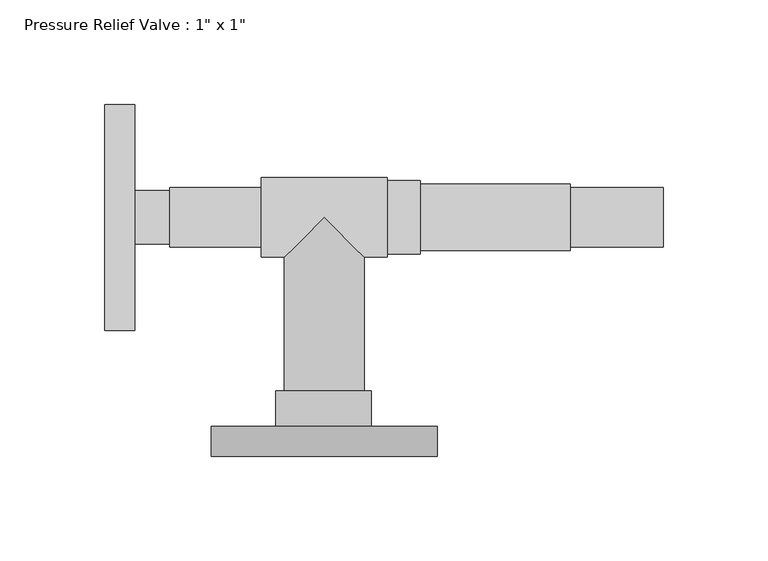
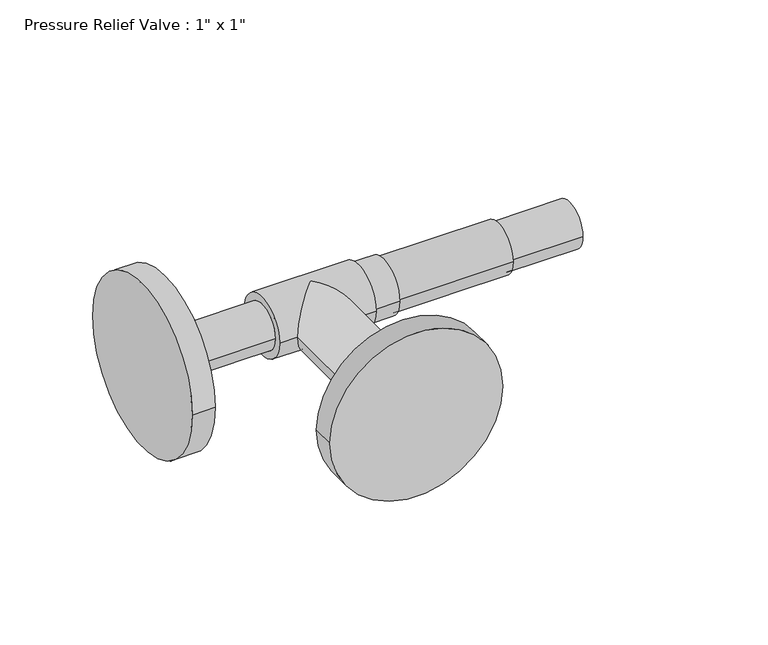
"""IFC4 building model written with IfcOpenShell, lengths in millimetres: valve geometry."""

from ifc_helpers import new_model, si_unit, point, frame, frame_2d, origin, place, context, project, spatial, circle_curve, ellipse_curve, trimmed, segment, composite_curve, outline, extrude, source, transform, mapped, element, save
from ifc_brep_helpers import plane_surface, cylinder_surface, advanced_brep


def valve_f67c32de(model_context):
    return source(origin(), model_context, "Body", "SolidModel", [
        advanced_brep(
        [(30.1625, 19.05, 0.0), (30.1625, -19.05, 0.0), (30.1625, -17.4625, 0.0), (30.1625, 17.4625, 0.0), (-30.1625, 19.05, 0.0), (-30.1625, -19.05, 0.0), (-30.1625, 14.2875, 0.0), (-30.1625, -14.2875, 0.0), (19.05, -19.05, 0.0), (0.0, 0.0, -19.05), (-19.05, -19.05, 0.0), (0.0, 0.0, 19.05), (-90.5867187, 12.7, 0.0), (-90.5867187, -12.7, 0.0), (-73.895712, 12.7, 0.0), (-73.895712, -12.7, 0.0), (19.05, -82.9273723, 0.0), (-19.05, -82.9273723, 0.0), (22.4890133, -100.0125, 0.0), (-23.2309867, -100.0125, 0.0), (22.4890133, -82.9273723, 0.0), (-23.2309867, -82.9273723, 0.0), (117.475, 15.875, 0.0), (117.475, -15.875, 0.0), (117.475, -14.2875, 0.0), (117.475, 14.2875, 0.0), (45.72, -15.875, 0.0), (45.72, 15.875, 0.0), (161.925, 14.2875, 0.0), (161.925, -14.2875, 0.0), (-73.895712, 14.2875, 0.0), (-73.895712, -14.2875, 0.0), (45.72, 17.4625, 0.0), (45.72, -17.4625, 0.0)],
        [
            (0, 1, circle_curve(frame((30.1625, 0.0, 0.0), z_axis=(1.0, 0.0, 0.0), x_axis=(0.0, -1.0, 0.0)), 19.05)),
            (1, 0, circle_curve(frame((30.1625, 0.0, 0.0), z_axis=(1.0, 0.0, 0.0), x_axis=(0.0, -1.0, 0.0)), 19.05)),
            (2, 3, circle_curve(frame((30.1625, 0.0, 0.0), z_axis=(-1.0, 0.0, 0.0), x_axis=(0.0, -1.0, 0.0)), 17.4625)),
            (3, 2, circle_curve(frame((30.1625, 0.0, 0.0), z_axis=(-1.0, 0.0, 0.0), x_axis=(0.0, -1.0, 0.0)), 17.4625)),
            (4, 5, circle_curve(frame((-30.1625, 0.0, 0.0), z_axis=(-1.0, 0.0, 0.0), x_axis=(0.0, -1.0, 0.0)), 19.05)),
            (5, 4, circle_curve(frame((-30.1625, 0.0, 0.0), z_axis=(-1.0, 0.0, 0.0), x_axis=(0.0, -1.0, 0.0)), 19.05)),
            (6, 7, circle_curve(frame((-30.1625, 0.0, 0.0), z_axis=(1.0, 0.0, 0.0), x_axis=(0.0, -1.0, 0.0)), 14.2875)),
            (7, 6, circle_curve(frame((-30.1625, 0.0, 0.0), z_axis=(1.0, 0.0, 0.0), x_axis=(0.0, -1.0, 0.0)), 14.2875)),
            (1, 8),
            (8, 9, ellipse_curve(frame((0.0, 0.0, 0.0), z_axis=(0.7071067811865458, 0.7071067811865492, 0.0), x_axis=(0.7071067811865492, -0.7071067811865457, 0.0)), 26.9407684, 19.05)),
            (9, 10, ellipse_curve(frame((0.0, 0.0, 0.0), z_axis=(-0.7071067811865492, 0.7071067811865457, 0.0), x_axis=(0.7071067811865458, 0.7071067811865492, 0.0)), 26.9407684, 19.05)),
            (10, 5),
            (4, 0),
            (10, 11, ellipse_curve(frame((0.0, 0.0, 0.0), z_axis=(-0.7071067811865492, 0.7071067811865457, 0.0), x_axis=(0.7071067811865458, 0.7071067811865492, 0.0)), 26.9407684, 19.05)),
            (11, 8, ellipse_curve(frame((0.0, 0.0, 0.0), z_axis=(0.7071067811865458, 0.7071067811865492, 0.0), x_axis=(0.7071067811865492, -0.7071067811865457, 0.0)), 26.9407684, 19.05)),
            (12, 13, circle_curve(frame((-90.5867187, 0.0, 0.0), z_axis=(-1.0, 0.0, 0.0), x_axis=(0.0, -1.0, 0.0)), 12.7)),
            (13, 12, circle_curve(frame((-90.5867187, 0.0, 0.0), z_axis=(-1.0, 0.0, 0.0), x_axis=(0.0, -1.0, 0.0)), 12.7)),
            (12, 14),
            (14, 15, circle_curve(frame((-73.895712, 0.0, 0.0), z_axis=(-1.0, 0.0, 0.0), x_axis=(0.0, -1.0, 0.0)), 12.7)),
            (15, 13),
            (15, 14, circle_curve(frame((-73.895712, 0.0, 0.0), z_axis=(-1.0, 0.0, 0.0), x_axis=(0.0, -1.0, 0.0)), 12.7)),
            (16, 17, circle_curve(frame((0.0, -82.9273723, 0.0), z_axis=(0.0, 1.0, 0.0), x_axis=(-1.0, 0.0, 0.0)), 19.05)),
            (17, 10),
            (8, 16),
            (17, 16, circle_curve(frame((0.0, -82.9273723, 0.0), z_axis=(0.0, 1.0, 0.0), x_axis=(-1.0, 0.0, 0.0)), 19.05)),
            (18, 19, circle_curve(frame((-0.3709867, -100.0125, 0.0), z_axis=(0.0, -1.0, 0.0), x_axis=(-1.0, 0.0, 0.0)), 22.86)),
            (19, 18, circle_curve(frame((-0.3709867, -100.0125, 0.0), z_axis=(0.0, -1.0, 0.0), x_axis=(-1.0, 0.0, 0.0)), 22.86)),
            (20, 21, circle_curve(frame((-0.3709867, -82.9273723, 0.0), z_axis=(0.0, 1.0, 0.0), x_axis=(-1.0, 0.0, 0.0)), 22.86)),
            (21, 20, circle_curve(frame((-0.3709867, -82.9273723, 0.0), z_axis=(0.0, 1.0, 0.0), x_axis=(-1.0, 0.0, 0.0)), 22.86)),
            (19, 21),
            (20, 18),
            (22, 23, circle_curve(frame((117.475, 0.0, 0.0), z_axis=(1.0, 0.0, 0.0), x_axis=(0.0, -1.0, 0.0)), 15.875)),
            (23, 22, circle_curve(frame((117.475, 0.0, 0.0), z_axis=(1.0, 0.0, 0.0), x_axis=(0.0, -1.0, 0.0)), 15.875)),
            (24, 25, circle_curve(frame((117.475, 0.0, 0.0), z_axis=(-1.0, 0.0, 0.0), x_axis=(0.0, -1.0, 0.0)), 14.2875)),
            (25, 24, circle_curve(frame((117.475, 0.0, 0.0), z_axis=(-1.0, 0.0, 0.0), x_axis=(0.0, -1.0, 0.0)), 14.2875)),
            (23, 26),
            (26, 27, circle_curve(frame((45.72, 0.0, 0.0), z_axis=(1.0, 0.0, 0.0), x_axis=(0.0, -1.0, 0.0)), 15.875)),
            (27, 22),
            (27, 26, circle_curve(frame((45.72, 0.0, 0.0), z_axis=(1.0, 0.0, 0.0), x_axis=(0.0, -1.0, 0.0)), 15.875)),
            (28, 29, circle_curve(frame((161.925, 0.0, 0.0), z_axis=(1.0, 0.0, 0.0), x_axis=(0.0, -1.0, 0.0)), 14.2875)),
            (29, 28, circle_curve(frame((161.925, 0.0, 0.0), z_axis=(1.0, 0.0, 0.0), x_axis=(0.0, -1.0, 0.0)), 14.2875)),
            (29, 24),
            (25, 28),
            (30, 31, circle_curve(frame((-73.895712, 0.0, 0.0), z_axis=(-1.0, 0.0, 0.0), x_axis=(0.0, -1.0, 0.0)), 14.2875)),
            (31, 30, circle_curve(frame((-73.895712, 0.0, 0.0), z_axis=(-1.0, 0.0, 0.0), x_axis=(0.0, -1.0, 0.0)), 14.2875)),
            (30, 6),
            (7, 31),
            (32, 33, circle_curve(frame((45.72, 0.0, 0.0), z_axis=(1.0, 0.0, 0.0), x_axis=(0.0, -1.0, 0.0)), 17.4625)),
            (33, 32, circle_curve(frame((45.72, 0.0, 0.0), z_axis=(1.0, 0.0, 0.0), x_axis=(0.0, -1.0, 0.0)), 17.4625)),
            (33, 2),
            (3, 32),
        ],
        [
            plane_surface(frame((30.1625, -19.05, 0.0), z_axis=(1.0, 0.0, 0.0), x_axis=(0.0, 0.0, 1.0))),
            plane_surface(frame((-30.1625, -19.05, 0.0), z_axis=(-1.0, 0.0, 0.0), x_axis=(0.0, 0.0, -1.0))),
            cylinder_surface(frame((-30.1625, 0.0, 0.0), z_axis=(1.0, 0.0, 0.0), x_axis=(0.0, -1.0, 0.0)), 19.05),
            plane_surface(frame((-90.5867187, -12.7, 0.0), z_axis=(-1.0, 0.0, 0.0), x_axis=(0.0, 0.0, -1.0))),
            cylinder_surface(frame((-90.5867187, 0.0, 0.0), z_axis=(1.0, 0.0, 0.0), x_axis=(0.0, -1.0, 0.0)), 12.7),
            cylinder_surface(frame((0.0, 0.0, 0.0), z_axis=(0.0, -1.0, 0.0), x_axis=(-1.0, 0.0, 0.0)), 19.05),
            plane_surface(frame((-23.2309867, -100.0125, 0.0), z_axis=(0.0, -1.0, 0.0), x_axis=(0.0, 0.0, 1.0))),
            plane_surface(frame((-23.2309867, -82.9273723, 0.0), z_axis=(0.0, 1.0, 0.0), x_axis=(0.0, 0.0, -1.0))),
            cylinder_surface(frame((-0.3709867, -82.9273723, 0.0), z_axis=(0.0, -1.0, 0.0), x_axis=(-1.0, 0.0, 0.0)), 22.86),
            plane_surface(frame((117.475, -15.875, 0.0), z_axis=(1.0, 0.0, 0.0), x_axis=(0.0, 0.0, 1.0))),
            cylinder_surface(frame((45.72, 0.0, 0.0), z_axis=(1.0, 0.0, 0.0), x_axis=(0.0, -1.0, 0.0)), 15.875),
            plane_surface(frame((161.925, -14.2875, 0.0), z_axis=(1.0, 0.0, 0.0), x_axis=(0.0, 0.0, 1.0))),
            cylinder_surface(frame((117.475, 0.0, 0.0), z_axis=(1.0, 0.0, 0.0), x_axis=(0.0, -1.0, 0.0)), 14.2875),
            plane_surface(frame((-73.895712, -14.2875, 0.0), z_axis=(-1.0, 0.0, 0.0), x_axis=(0.0, 0.0, -1.0))),
            cylinder_surface(frame((-73.895712, 0.0, 0.0), z_axis=(1.0, 0.0, 0.0), x_axis=(0.0, -1.0, 0.0)), 14.2875),
            plane_surface(frame((45.72, -17.4625, 0.0), z_axis=(1.0, 0.0, 0.0), x_axis=(0.0, 0.0, 1.0))),
            cylinder_surface(frame((30.1625, 0.0, 0.0), z_axis=(1.0, 0.0, 0.0), x_axis=(0.0, -1.0, 0.0)), 17.4625),
        ],
        [
            (0, [[1, 2], [3, 4]]),
            (1, [[5, 6], [7, 8]]),
            (2, [[9, 10, 11, 12, -5, 13, -2]]),
            (2, [[-13, -6, -12, 14, 15, -9, -1]]),
            (3, [[16, 17]]),
            (4, [[18, 19, 20, -16]]),
            (4, [[-20, 21, -18, -17]]),
            (5, [[22, 23, -11, -10, 24]]),
            (5, [[-15, -14, -23, 25, -24]]),
            (6, [[26, 27]]),
            (7, [[28, 29], [-25, -22]]),
            (8, [[30, -28, 31, -27]]),
            (8, [[-31, -29, -30, -26]]),
            (9, [[32, 33], [34, 35]]),
            (10, [[36, 37, 38, -33]]),
            (10, [[-38, 39, -36, -32]]),
            (11, [[40, 41]]),
            (12, [[42, -35, 43, -41]]),
            (12, [[-43, -34, -42, -40]]),
            (13, [[44, 45], [-21, -19]]),
            (14, [[46, -8, 47, -44]]),
            (14, [[-47, -7, -46, -45]]),
            (15, [[48, 49], [-39, -37]]),
            (16, [[50, -4, 51, -49]]),
            (16, [[-51, -3, -50, -48]]),
        ],
    ),
        extrude(outline(composite_curve([segment(trimmed(circle_curve(frame_2d((0.0, 0.0407802)), 53.975), [point((0.0, -53.9342198))], [point((0.0, 54.0157802))], False, "CARTESIAN"), True, "CONTINUOUS"), segment(trimmed(circle_curve(frame_2d((0.0, 0.0407802)), 53.975), [point((0.0, 54.0157802))], [point((0.0, -53.9342198))], False, "CARTESIAN"), True, "CONTINUOUS")], self_intersect=False)), frame((0.0, -114.3, 0.0), z_axis=(0.0, 1.0, 0.0), x_axis=(0.0, 0.0, 1.0)), (0.0, 0.0, 1.0), 14.2875),
        extrude(outline(composite_curve([segment(trimmed(circle_curve(frame_2d((-0.1263037, 0.0)), 53.975), [point((53.8486963, 0.0))], [point((-54.1013037, 0.0))], False, "CARTESIAN"), True, "CONTINUOUS"), segment(trimmed(circle_curve(frame_2d((-0.1263037, 0.0)), 53.975), [point((-54.1013037, 0.0))], [point((53.8486963, 0.0))], False, "CARTESIAN"), True, "CONTINUOUS")], self_intersect=False)), frame((-104.8742187, 0.0, 0.0), z_axis=(1.0, 0.0, 0.0), x_axis=(0.0, 1.0, 0.0)), (0.0, 0.0, 1.0), 14.2875),
    ])


if __name__ == "__main__":
    model = new_model("IFC4")
    model_context = context("Model", 3, world=origin())
    ifc_project = project(units=[si_unit("LENGTHUNIT", "METRE", prefix="MILLI")], contexts=[model_context])
    site = spatial("IfcSite", under=ifc_project)
    building = spatial("IfcBuilding", under=site)
    placement = place(None, origin())
    valve_shape = valve_f67c32de(model_context)
    element("IfcValve", 1, ObjectType="Pressure Relief Valve : 1\" x 1\"", at=placement, inside=building, context=model_context, shape_type="MappedRepresentation", body=[
        mapped(valve_shape, transform((0.0, 0.0, 0.0), x_axis=(1.0, 0.0, 0.0), y_axis=(0.0, 1.0, 0.0), z_axis=(0.0, 0.0, 1.0))),
    ])
    save(model, "model.ifc")
